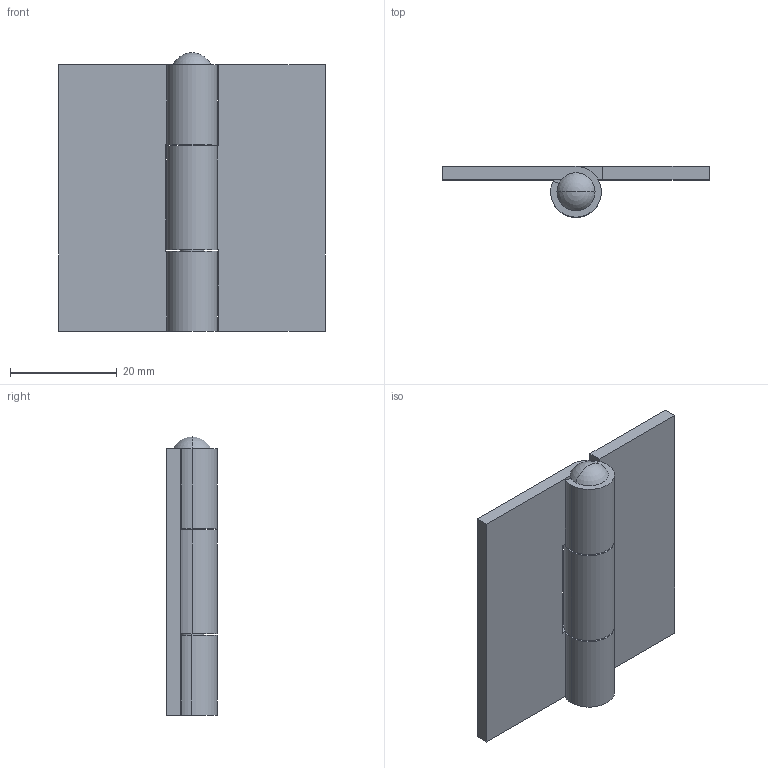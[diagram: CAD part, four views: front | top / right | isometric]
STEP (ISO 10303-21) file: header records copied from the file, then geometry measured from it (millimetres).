
FILE_DESCRIPTION((''),'2;1');
FILE_NAME('6008.01.stp','2015-07-17T15:35:14',(''),(''),'Mechanical Desktop 2006','Mechanical Desktop 2006',', , ');
FILE_SCHEMA(('CONFIG_CONTROL_DESIGN'));
Length unit declared in the file: millimetre
Products named in the file (1): 6008.01
Bounding box: 50 x 9.5 x 52.2 mm (x, y, z)
Volume: 8700 mm3; surface area: 7679.6 mm2
Topology: 2 solids, 2 shells, 42 faces, 115 edges, 76 vertices
Faces by surface type: plane 22, cylinder 18, sphere 2
Entity records: 1421 total; most frequent: DIRECTION 242, CARTESIAN_POINT 230, ORIENTED_EDGE 224, EDGE_CURVE 112, AXIS2_PLACEMENT_3D 87, VERTEX_POINT 75, VECTOR 68, LINE 68
